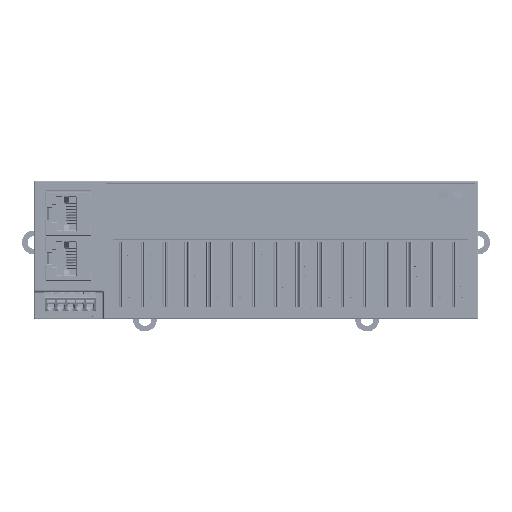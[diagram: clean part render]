
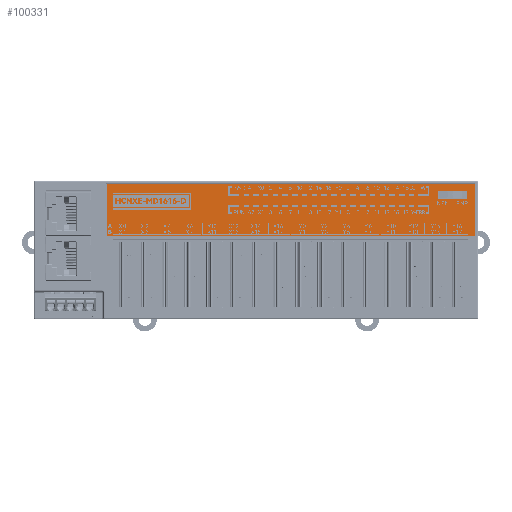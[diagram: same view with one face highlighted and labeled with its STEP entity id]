
A CAD part, top view. The second image highlights one B-rep face of the part: STEP entity #100331.
In plain terms, the highlighted planar face has unit normal (0, 0, 1) as drawn and (0, -1, 0) by its records, which use the part's own axes.
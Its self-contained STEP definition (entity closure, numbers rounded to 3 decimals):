
#100178=DIRECTION('',(0.,0.,-1.));
#100179=VECTOR('',#100178,18.91);
#100180=CARTESIAN_POINT('',(-66.33,-0.5,9.455));
#100181=LINE('',#100180,#100179);
#100186=DIRECTION('',(1.,0.,0.));
#100187=VECTOR('',#100186,132.66);
#100188=CARTESIAN_POINT('',(-66.33,-0.5,-9.455));
#100189=LINE('',#100188,#100187);
#100194=DIRECTION('',(0.,0.,1.));
#100195=VECTOR('',#100194,18.91);
#100196=CARTESIAN_POINT('',(66.33,-0.5,-9.455));
#100197=LINE('',#100196,#100195);
#100202=DIRECTION('',(-1.,0.,0.));
#100203=VECTOR('',#100202,132.66);
#100204=CARTESIAN_POINT('',(66.33,-0.5,9.455));
#100205=LINE('',#100204,#100203);
#100242=DIRECTION('',(0.,0.,1.));
#100243=VECTOR('',#100242,2.9);
#100244=CARTESIAN_POINT('',(53.05,-0.5,4.08));
#100245=LINE('',#100244,#100243);
#100250=DIRECTION('',(1.,0.,0.));
#100251=VECTOR('',#100250,10.4);
#100252=CARTESIAN_POINT('',(53.05,-0.5,6.98));
#100253=LINE('',#100252,#100251);
#100258=DIRECTION('',(0.,0.,-1.));
#100259=VECTOR('',#100258,2.9);
#100260=CARTESIAN_POINT('',(63.45,-0.5,6.98));
#100261=LINE('',#100260,#100259);
#100266=DIRECTION('',(-1.,0.,0.));
#100267=VECTOR('',#100266,10.4);
#100268=CARTESIAN_POINT('',(63.45,-0.5,4.08));
#100269=LINE('',#100268,#100267);
#100274=CARTESIAN_POINT('',(-66.33,-0.5,9.455));
#100275=CARTESIAN_POINT('',(-66.33,-0.5,-9.455));
#100276=VERTEX_POINT('',#100274);
#100277=VERTEX_POINT('',#100275);
#100278=CARTESIAN_POINT('',(66.33,-0.5,9.455));
#100279=VERTEX_POINT('',#100278);
#100280=CARTESIAN_POINT('',(66.33,-0.5,-9.455));
#100281=VERTEX_POINT('',#100280);
#100282=CARTESIAN_POINT('',(53.05,-0.5,4.08));
#100283=CARTESIAN_POINT('',(53.05,-0.5,6.98));
#100284=VERTEX_POINT('',#100282);
#100285=VERTEX_POINT('',#100283);
#100286=CARTESIAN_POINT('',(63.45,-0.5,4.08));
#100287=VERTEX_POINT('',#100286);
#100288=CARTESIAN_POINT('',(63.45,-0.5,6.98));
#100289=VERTEX_POINT('',#100288);
#100306=CARTESIAN_POINT('',(0.,-0.5,0.));
#100307=DIRECTION('',(0.,1.,0.));
#100308=DIRECTION('',(1.,0.,0.));
#100309=AXIS2_PLACEMENT_3D('',#100306,#100307,#100308);
#100310=PLANE('',#100309);
#100312=ORIENTED_EDGE('',*,*,#100311,.F.);
#100314=ORIENTED_EDGE('',*,*,#100313,.F.);
#100316=ORIENTED_EDGE('',*,*,#100315,.F.);
#100318=ORIENTED_EDGE('',*,*,#100317,.F.);
#100319=EDGE_LOOP('',(#100312,#100314,#100316,#100318));
#100320=FACE_OUTER_BOUND('',#100319,.F.);
#100322=ORIENTED_EDGE('',*,*,#100321,.F.);
#100324=ORIENTED_EDGE('',*,*,#100323,.F.);
#100326=ORIENTED_EDGE('',*,*,#100325,.F.);
#100328=ORIENTED_EDGE('',*,*,#100327,.F.);
#100329=EDGE_LOOP('',(#100322,#100324,#100326,#100328));
#100330=FACE_BOUND('',#100329,.F.);
#100331=ADVANCED_FACE('',(#100320,#100330),#100310,.F.);
#100311=EDGE_CURVE('',#100276,#100277,#100181,.T.);
#100313=EDGE_CURVE('',#100279,#100276,#100205,.T.);
#100315=EDGE_CURVE('',#100281,#100279,#100197,.T.);
#100317=EDGE_CURVE('',#100277,#100281,#100189,.T.);
#100321=EDGE_CURVE('',#100284,#100285,#100245,.T.);
#100323=EDGE_CURVE('',#100287,#100284,#100269,.T.);
#100325=EDGE_CURVE('',#100289,#100287,#100261,.T.);
#100327=EDGE_CURVE('',#100285,#100289,#100253,.T.);
